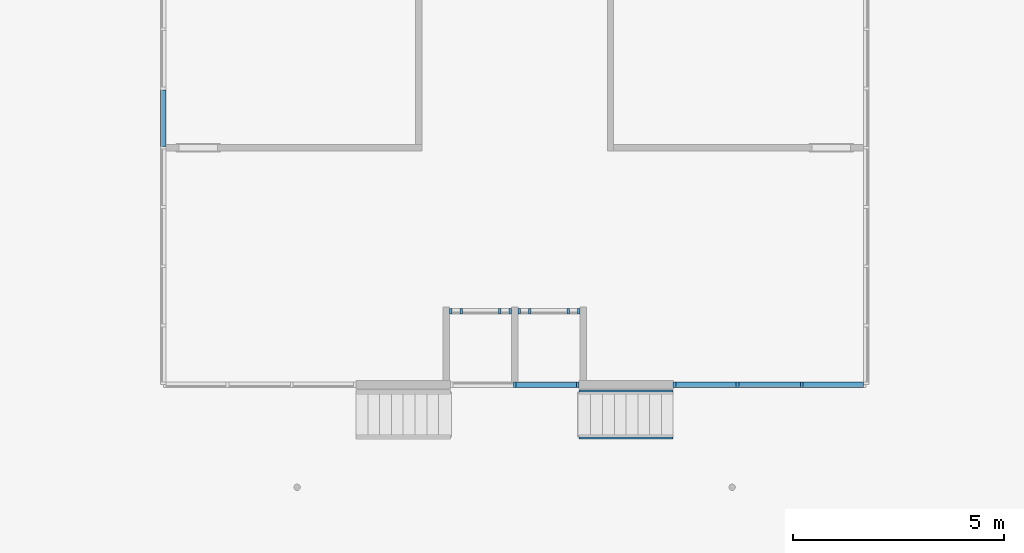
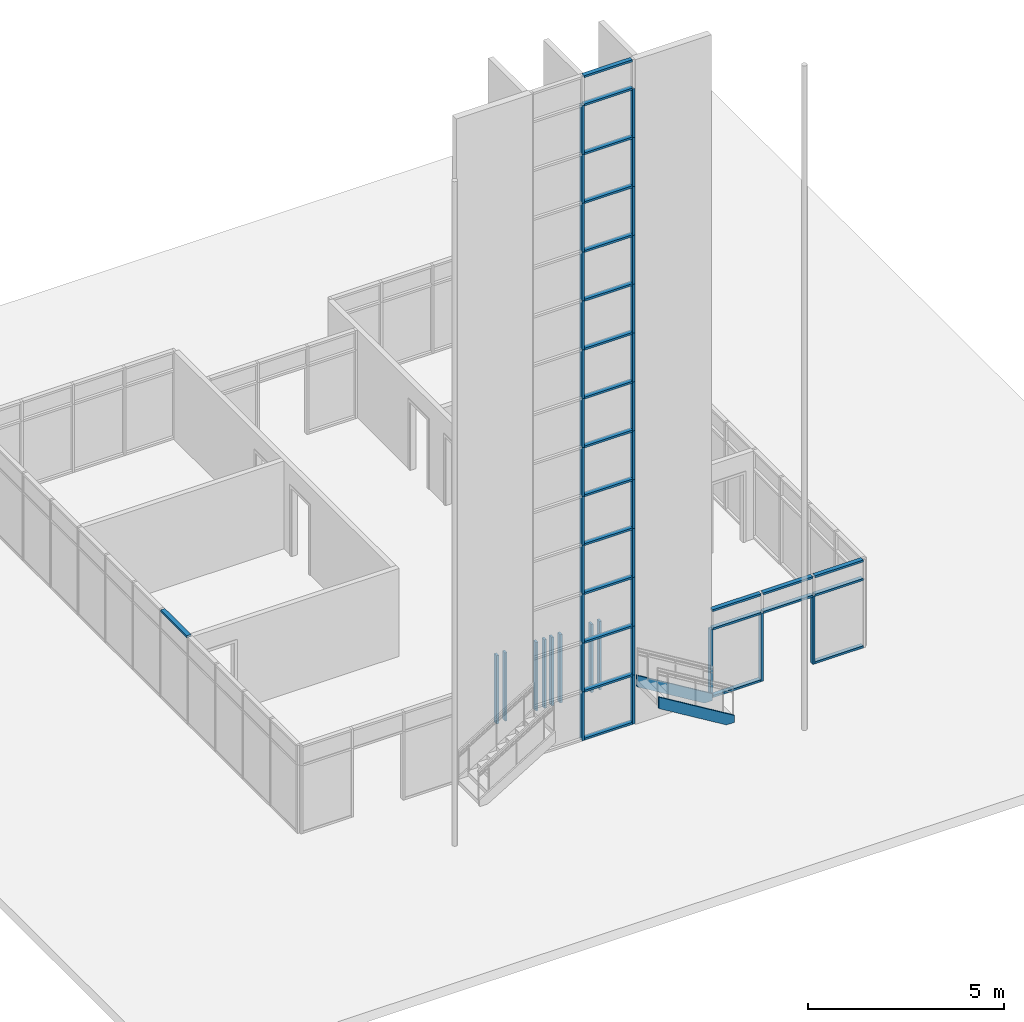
# One storey, part 2 of 12: 63 members, 6 elements without a shape of their own.
"""IFC2X3 building model written with IfcOpenShell, lengths in feet."""

from ifc_helpers import new_model, entity, si_unit, converted_unit, derived_unit, direction, frame, origin, origin_2d_with_axis, place, context, subcontext, project, spatial, polyline, rectangle, outline, extrude, source, transform, mapped, material, type_object, type_shapes, element, aggregate, save


model = new_model("IFC2X3")

# Units and contexts
model_context = context("Model", 3, precision=0.0001, world=origin(), true_north=direction((6.12303176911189e-17, 1.0)))
body_context = subcontext(model_context, "Body", "Model", "MODEL_VIEW")
ifc_project = project(units=[converted_unit("LENGTHUNIT", "FOOT", entity("IfcRatioMeasure", 0.3048), si_unit("LENGTHUNIT", "METRE"), dimensions=[1, 0, 0, 0, 0, 0, 0]), converted_unit("AREAUNIT", "SQUARE FOOT", entity("IfcRatioMeasure", 0.09290304), si_unit("AREAUNIT", "SQUARE_METRE"), dimensions=[2, 0, 0, 0, 0, 0, 0]), converted_unit("VOLUMEUNIT", "CUBIC FOOT", entity("IfcRatioMeasure", 0.028316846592), si_unit("VOLUMEUNIT", "CUBIC_METRE"), dimensions=[3, 0, 0, 0, 0, 0, 0]), converted_unit("PLANEANGLEUNIT", "DEGREE", entity("IfcRatioMeasure", 0.0174532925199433), si_unit("PLANEANGLEUNIT", "RADIAN"), dimensions=[0, 0, 0, 0, 0, 0, 0]), si_unit("MASSUNIT", "GRAM", prefix="KILO"), derived_unit("MASSDENSITYUNIT", [(si_unit("MASSUNIT", "GRAM", prefix="KILO"), 1), (si_unit("LENGTHUNIT", "METRE"), -3)]), si_unit("TIMEUNIT", "SECOND"), si_unit("FREQUENCYUNIT", "HERTZ"), si_unit("THERMODYNAMICTEMPERATUREUNIT", "DEGREE_CELSIUS"), derived_unit("THERMALTRANSMITTANCEUNIT", [(si_unit("MASSUNIT", "GRAM", prefix="KILO"), 1), (si_unit("THERMODYNAMICTEMPERATUREUNIT", "KELVIN"), -1), (si_unit("TIMEUNIT", "SECOND"), -3)]), derived_unit("VOLUMETRICFLOWRATEUNIT", [(si_unit("LENGTHUNIT", "METRE"), 3), (si_unit("TIMEUNIT", "SECOND"), -1)]), si_unit("ELECTRICCURRENTUNIT", "AMPERE"), si_unit("ELECTRICVOLTAGEUNIT", "VOLT"), si_unit("POWERUNIT", "WATT"), si_unit("FORCEUNIT", "NEWTON"), si_unit("ILLUMINANCEUNIT", "LUX"), si_unit("LUMINOUSFLUXUNIT", "LUMEN"), si_unit("LUMINOUSINTENSITYUNIT", "CANDELA"), derived_unit("USERDEFINED", [(si_unit("MASSUNIT", "GRAM", prefix="KILO"), -1), (si_unit("LENGTHUNIT", "METRE"), -2), (si_unit("TIMEUNIT", "SECOND"), 3), (si_unit("LUMINOUSFLUXUNIT", "LUMEN"), 1)]), derived_unit("LINEARVELOCITYUNIT", [(si_unit("LENGTHUNIT", "METRE"), 1), (si_unit("TIMEUNIT", "SECOND"), -1)]), si_unit("PRESSUREUNIT", "PASCAL"), derived_unit("USERDEFINED", [(si_unit("LENGTHUNIT", "METRE"), -2), (si_unit("MASSUNIT", "GRAM", prefix="KILO"), 1), (si_unit("TIMEUNIT", "SECOND"), -2)])], contexts=[model_context])

# Site, building, storey
site_placement = place(None, origin())
site = spatial("IfcSite", under=ifc_project, at=site_placement, Name="Default", CompositionType="ELEMENT")
building_placement = place(site_placement, origin())
building = spatial("IfcBuilding", under=site, at=building_placement, CompositionType="ELEMENT")
storey_placement = place(building_placement, origin())
storey = spatial("IfcBuildingStorey", under=building, at=storey_placement, Name="Level 1", CompositionType="ELEMENT", Elevation=0.0)

# Stair, members
stair_placement = place(storey_placement, origin())
stair = element("IfcStair", 1, at=stair_placement, inside=storey, Name="Assembled Stair:Stair", ObjectType="Assembled Stair:7\" max riser 11\" tread", ShapeType="NOTDEFINED")
member_type_1 = type_object("IfcMemberType", Name="Stringer:Stringer - 2\" Width", PredefinedType="STRINGER")
member_1_placement = place(stair_placement, origin())
member_1 = element("IfcMember", 2, at=member_1_placement, type_object=member_type_1, Name="Assembled Stair:Stair:188782 Stringer 1", ObjectType="Assembled Stair:7\" max riser 11\" tread", context=body_context, shape_type="SweptSolid", body=[
    extrude(outline(polyline([(-3.08955742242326, -1.96146201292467), (-2.30843697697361, -1.96146201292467), (4.24377591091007, 2.009576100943), (4.24377591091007, 3.1788961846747), (-3.08955742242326, -1.26554825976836), (-3.08955742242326, -1.96146201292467)])), frame((-24.7480535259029, -7.50364126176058, 1.96146201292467), z_axis=(0.0, 1.0, 0.0), x_axis=(-1.0, 0.0, 0.0)), (0.0, 0.0, 1.0), 0.166666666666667),
])
member_2_placement = place(stair_placement, origin())
member_2 = element("IfcMember", 3, at=member_2_placement, type_object=member_type_1, Name="Assembled Stair:Stair:188782 Stringer 2", ObjectType="Assembled Stair:7\" max riser 11\" tread", context=body_context, shape_type="SweptSolid", body=[
    extrude(outline(polyline([(-3.08955742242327, -1.96146201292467), (-2.30843697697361, -1.96146201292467), (4.24377591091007, 2.009576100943), (4.24377591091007, 3.1788961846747), (-3.08955742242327, -1.26554825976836), (-3.08955742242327, -1.96146201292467)])), frame((-24.7480535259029, -11.1703079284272, 1.96146201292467), z_axis=(0.0, 1.0, 0.0), x_axis=(-1.0, 0.0, 0.0)), (0.0, 0.0, 1.0), 0.166666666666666),
])
aggregate(stair, [member_1, member_2])

# Curtain wall, member
curtain_wall_type_1 = type_object("IfcCurtainWallType", Name="Curtain Wall:Storefront", PredefinedType="NOTDEFINED")
curtain_wall_1_placement = place(storey_placement, origin())
curtain_wall_1 = element("IfcCurtainWall", 4, at=curtain_wall_1_placement, inside=storey, type_object=curtain_wall_type_1, Name="Curtain Wall:Storefront", ObjectType="Curtain Wall:Storefront")
ifc_material = material(Name="Aluminum")
member_type_2 = type_object("IfcMemberType", Name="2.5\" x 5\" rectangular", PredefinedType="MEMBER")
shared_shape_1 = source(origin(), body_context, "Body", "SweptSolid", [
    extrude(rectangle(XDim=0.416666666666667, YDim=0.208333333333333, at=origin_2d_with_axis()), frame((-0.104166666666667, 0.0, -4.6875), z_axis=(0.0, 0.0, 1.0), x_axis=(0.0, -1.0, 0.0)), (0.0, 0.0, 1.0), 4.6875),
])
type_shapes(member_type_2, [shared_shape_1])
member_3_placement = place(storey_placement, frame((-29.2001627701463, -6.94114126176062, 68.0), z_axis=(1.0, 0.0, 0.0), x_axis=(0.0, 0.0, 1.0)))
member_3 = element("IfcMember", 5, at=member_3_placement, type_object=member_type_2, material=ifc_material, Name="Rectangular Mullion:2.5\" x 5\" rectangular", ObjectType="2.5\" x 5\" rectangular", context=body_context, shape_type="MappedRepresentation", body=[
    mapped(shared_shape_1, transform((0.0, 0.0, 0.0), scale=1.0)),
])

# Curtain wall, members
curtain_wall_type_2 = type_object("IfcCurtainWallType", Name="Curtain Wall:Storefront 2", PredefinedType="NOTDEFINED")
curtain_wall_2_placement = place(storey_placement, origin())
curtain_wall_2 = element("IfcCurtainWall", 6, at=curtain_wall_2_placement, inside=storey, type_object=curtain_wall_type_2, Name="Curtain Wall:Storefront 2", ObjectType="Curtain Wall:Storefront 2")
member_4_placement = place(storey_placement, frame((-21.4501627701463, -6.94114126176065, 9.0), z_axis=(-1.0, 0.0, 0.0), x_axis=(0.0, 0.0, 1.0)))
member_4 = element("IfcMember", 7, at=member_4_placement, type_object=member_type_2, material=ifc_material, Name="Rectangular Mullion:2.5\" x 5\" rectangular", ObjectType="2.5\" x 5\" rectangular", context=body_context, shape_type="MappedRepresentation", body=[
    mapped(shared_shape_1, transform((0.0, 0.0, 0.0), scale=1.0)),
])
member_5_placement = place(storey_placement, frame((-11.5543294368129, -6.94114126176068, 9.0), z_axis=(-1.0, 0.0, 0.0), x_axis=(0.0, 0.0, 1.0)))
member_5 = element("IfcMember", 8, at=member_5_placement, type_object=member_type_2, material=ifc_material, Name="Rectangular Mullion:2.5\" x 5\" rectangular", ObjectType="2.5\" x 5\" rectangular", context=body_context, shape_type="MappedRepresentation", body=[
    mapped(shared_shape_1, transform((0.0, 0.0, 0.0), scale=1.0)),
])

# Member
member_type_3 = type_object("IfcMemberType", Name="2.5\" x 5\" rectangular", PredefinedType="MEMBER")
shared_shape_2 = source(origin(), body_context, "Body", "SweptSolid", [
    extrude(rectangle(XDim=0.416666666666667, YDim=0.208333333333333, at=origin_2d_with_axis()), frame((-0.104166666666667, 0.0, -4.6875), z_axis=(0.0, 0.0, 1.0), x_axis=(0.0, -1.0, 0.0)), (0.0, 0.0, 1.0), 4.6875),
])
type_shapes(member_type_3, [shared_shape_2])
member_6_placement = place(storey_placement, frame((-33.8876627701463, -6.94114126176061, 0.0), z_axis=(-1.0, 0.0, 0.0), x_axis=(0.0, 0.0, -1.0)))
member_6 = element("IfcMember", 9, at=member_6_placement, type_object=member_type_3, material=ifc_material, Name="Rectangular Mullion:2.5\" x 5\" rectangular", ObjectType="2.5\" x 5\" rectangular", context=body_context, shape_type="MappedRepresentation", body=[
    mapped(shared_shape_2, transform((0.0, 0.0, 0.0), scale=1.0)),
])

member_7_placement = place(storey_placement, frame((-6.86682943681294, -6.94114126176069, 0.0), z_axis=(1.0, 0.0, 0.0), x_axis=(0.0, 0.0, -1.0)))
member_7 = element("IfcMember", 10, at=member_7_placement, type_object=member_type_3, material=ifc_material, Name="Rectangular Mullion:2.5\" x 5\" rectangular", ObjectType="2.5\" x 5\" rectangular", context=body_context, shape_type="MappedRepresentation", body=[
    mapped(shared_shape_2, transform((0.0, 0.0, 0.0), scale=1.0)),
])

member_8_placement = place(storey_placement, frame((-16.7626627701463, -6.94114126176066, 0.0), z_axis=(1.0, 0.0, 0.0), x_axis=(0.0, 0.0, -1.0)))
member_8 = element("IfcMember", 11, at=member_8_placement, type_object=member_type_3, material=ifc_material, Name="Rectangular Mullion:2.5\" x 5\" rectangular", ObjectType="2.5\" x 5\" rectangular", context=body_context, shape_type="MappedRepresentation", body=[
    mapped(shared_shape_2, transform((0.0, 0.0, 0.0), scale=1.0)),
])

member_type_4 = type_object("IfcMemberType", Name="2.5\" x 5\" rectangular", PredefinedType="MEMBER")
shared_shape_3 = source(origin(), body_context, "Body", "SweptSolid", [
    extrude(rectangle(XDim=0.416666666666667, YDim=0.208333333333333, at=origin_2d_with_axis()), frame((-0.104166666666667, 0.0, -5.0), z_axis=(0.0, 0.0, 1.0), x_axis=(0.0, -1.0, 0.0)), (0.0, 0.0, 1.0), 5.0),
])
type_shapes(member_type_4, [shared_shape_3])
member_9_placement = place(storey_placement, frame((-28.9918294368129, -6.94114126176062, 0.0), z_axis=(0.0, 0.0, -1.0), x_axis=(1.0, 0.0, 0.0)))
member_9 = element("IfcMember", 12, at=member_9_placement, type_object=member_type_4, material=ifc_material, Name="Rectangular Mullion:2.5\" x 5\" rectangular", ObjectType="2.5\" x 5\" rectangular", context=body_context, shape_type="MappedRepresentation", body=[
    mapped(shared_shape_3, transform((0.0, 0.0, 0.0), scale=1.0)),
])

member_type_5 = type_object("IfcMemberType", Name="2.5\" x 5\" rectangular", PredefinedType="MEMBER")
shared_shape_4 = source(origin(), body_context, "Body", "SweptSolid", [
    extrude(rectangle(XDim=0.416666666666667, YDim=0.208333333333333, at=origin_2d_with_axis()), frame((-0.104166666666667, 0.0, -5.0), z_axis=(0.0, 0.0, 1.0), x_axis=(0.0, -1.0, 0.0)), (0.0, 0.0, 1.0), 5.0),
])
type_shapes(member_type_5, [shared_shape_4])
member_10_placement = place(storey_placement, frame((-28.9918294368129, -6.94114126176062, 5.0), z_axis=(0.0, 0.0, -1.0), x_axis=(1.0, 0.0, 0.0)))
member_10 = element("IfcMember", 13, at=member_10_placement, type_object=member_type_5, material=ifc_material, Name="Rectangular Mullion:2.5\" x 5\" rectangular", ObjectType="2.5\" x 5\" rectangular", context=body_context, shape_type="MappedRepresentation", body=[
    mapped(shared_shape_4, transform((0.0, 0.0, 0.0), scale=1.0)),
])

member_11_placement = place(storey_placement, frame((-28.9918294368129, -6.94114126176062, 10.0), z_axis=(0.0, 0.0, -1.0), x_axis=(1.0, 0.0, 0.0)))
member_11 = element("IfcMember", 14, at=member_11_placement, type_object=member_type_5, material=ifc_material, Name="Rectangular Mullion:2.5\" x 5\" rectangular", ObjectType="2.5\" x 5\" rectangular", context=body_context, shape_type="MappedRepresentation", body=[
    mapped(shared_shape_4, transform((0.0, 0.0, 0.0), scale=1.0)),
])

member_12_placement = place(storey_placement, frame((-28.9918294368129, -6.94114126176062, 15.0), z_axis=(0.0, 0.0, -1.0), x_axis=(1.0, 0.0, 0.0)))
member_12 = element("IfcMember", 15, at=member_12_placement, type_object=member_type_5, material=ifc_material, Name="Rectangular Mullion:2.5\" x 5\" rectangular", ObjectType="2.5\" x 5\" rectangular", context=body_context, shape_type="MappedRepresentation", body=[
    mapped(shared_shape_4, transform((0.0, 0.0, 0.0), scale=1.0)),
])

member_13_placement = place(storey_placement, frame((-28.9918294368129, -6.94114126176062, 20.0), z_axis=(0.0, 0.0, -1.0), x_axis=(1.0, 0.0, 0.0)))
member_13 = element("IfcMember", 16, at=member_13_placement, type_object=member_type_5, material=ifc_material, Name="Rectangular Mullion:2.5\" x 5\" rectangular", ObjectType="2.5\" x 5\" rectangular", context=body_context, shape_type="MappedRepresentation", body=[
    mapped(shared_shape_4, transform((0.0, 0.0, 0.0), scale=1.0)),
])

member_14_placement = place(storey_placement, frame((-28.9918294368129, -6.94114126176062, 25.0), z_axis=(0.0, 0.0, -1.0), x_axis=(1.0, 0.0, 0.0)))
member_14 = element("IfcMember", 17, at=member_14_placement, type_object=member_type_5, material=ifc_material, Name="Rectangular Mullion:2.5\" x 5\" rectangular", ObjectType="2.5\" x 5\" rectangular", context=body_context, shape_type="MappedRepresentation", body=[
    mapped(shared_shape_4, transform((0.0, 0.0, 0.0), scale=1.0)),
])

member_15_placement = place(storey_placement, frame((-28.9918294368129, -6.94114126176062, 30.0), z_axis=(0.0, 0.0, -1.0), x_axis=(1.0, 0.0, 0.0)))
member_15 = element("IfcMember", 18, at=member_15_placement, type_object=member_type_5, material=ifc_material, Name="Rectangular Mullion:2.5\" x 5\" rectangular", ObjectType="2.5\" x 5\" rectangular", context=body_context, shape_type="MappedRepresentation", body=[
    mapped(shared_shape_4, transform((0.0, 0.0, 0.0), scale=1.0)),
])

member_16_placement = place(storey_placement, frame((-28.9918294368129, -6.94114126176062, 35.0), z_axis=(0.0, 0.0, -1.0), x_axis=(1.0, 0.0, 0.0)))
member_16 = element("IfcMember", 19, at=member_16_placement, type_object=member_type_5, material=ifc_material, Name="Rectangular Mullion:2.5\" x 5\" rectangular", ObjectType="2.5\" x 5\" rectangular", context=body_context, shape_type="MappedRepresentation", body=[
    mapped(shared_shape_4, transform((0.0, 0.0, 0.0), scale=1.0)),
])

member_17_placement = place(storey_placement, frame((-28.9918294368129, -6.94114126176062, 40.0), z_axis=(0.0, 0.0, -1.0), x_axis=(1.0, 0.0, 0.0)))
member_17 = element("IfcMember", 20, at=member_17_placement, type_object=member_type_5, material=ifc_material, Name="Rectangular Mullion:2.5\" x 5\" rectangular", ObjectType="2.5\" x 5\" rectangular", context=body_context, shape_type="MappedRepresentation", body=[
    mapped(shared_shape_4, transform((0.0, 0.0, 0.0), scale=1.0)),
])

member_18_placement = place(storey_placement, frame((-28.9918294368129, -6.94114126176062, 45.0), z_axis=(0.0, 0.0, -1.0), x_axis=(1.0, 0.0, 0.0)))
member_18 = element("IfcMember", 21, at=member_18_placement, type_object=member_type_5, material=ifc_material, Name="Rectangular Mullion:2.5\" x 5\" rectangular", ObjectType="2.5\" x 5\" rectangular", context=body_context, shape_type="MappedRepresentation", body=[
    mapped(shared_shape_4, transform((0.0, 0.0, 0.0), scale=1.0)),
])

member_19_placement = place(storey_placement, frame((-28.9918294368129, -6.94114126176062, 50.0), z_axis=(0.0, 0.0, -1.0), x_axis=(1.0, 0.0, 0.0)))
member_19 = element("IfcMember", 22, at=member_19_placement, type_object=member_type_5, material=ifc_material, Name="Rectangular Mullion:2.5\" x 5\" rectangular", ObjectType="2.5\" x 5\" rectangular", context=body_context, shape_type="MappedRepresentation", body=[
    mapped(shared_shape_4, transform((0.0, 0.0, 0.0), scale=1.0)),
])

member_20_placement = place(storey_placement, frame((-28.9918294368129, -6.94114126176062, 55.0), z_axis=(0.0, 0.0, -1.0), x_axis=(1.0, 0.0, 0.0)))
member_20 = element("IfcMember", 23, at=member_20_placement, type_object=member_type_5, material=ifc_material, Name="Rectangular Mullion:2.5\" x 5\" rectangular", ObjectType="2.5\" x 5\" rectangular", context=body_context, shape_type="MappedRepresentation", body=[
    mapped(shared_shape_4, transform((0.0, 0.0, 0.0), scale=1.0)),
])

member_21_placement = place(storey_placement, frame((-28.9918294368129, -6.94114126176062, 60.0), z_axis=(0.0, 0.0, -1.0), x_axis=(1.0, 0.0, 0.0)))
member_21 = element("IfcMember", 24, at=member_21_placement, type_object=member_type_5, material=ifc_material, Name="Rectangular Mullion:2.5\" x 5\" rectangular", ObjectType="2.5\" x 5\" rectangular", context=body_context, shape_type="MappedRepresentation", body=[
    mapped(shared_shape_4, transform((0.0, 0.0, 0.0), scale=1.0)),
])

member_type_6 = type_object("IfcMemberType", Name="2.5\" x 5\" rectangular", PredefinedType="MEMBER")
shared_shape_5 = source(origin(), body_context, "Body", "SweptSolid", [
    extrude(rectangle(XDim=0.416666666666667, YDim=0.208333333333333, at=origin_2d_with_axis()), frame((0.0, 0.0, -4.6875), z_axis=(0.0, 0.0, 1.0), x_axis=(0.0, -1.0, 0.0)), (0.0, 0.0, 1.0), 4.6875),
])
type_shapes(member_type_6, [shared_shape_5])
member_22_placement = place(storey_placement, frame((-29.2001627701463, -6.94114126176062, 5.0), z_axis=(1.0, 0.0, 0.0), x_axis=(0.0, 0.0, 1.0)))
member_22 = element("IfcMember", 25, at=member_22_placement, type_object=member_type_6, material=ifc_material, Name="Rectangular Mullion:2.5\" x 5\" rectangular", ObjectType="2.5\" x 5\" rectangular", context=body_context, shape_type="MappedRepresentation", body=[
    mapped(shared_shape_5, transform((0.0, 0.0, 0.0), scale=1.0)),
])

member_23_placement = place(storey_placement, frame((-29.2001627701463, -6.94114126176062, 10.0), z_axis=(1.0, 0.0, 0.0), x_axis=(0.0, 0.0, 1.0)))
member_23 = element("IfcMember", 26, at=member_23_placement, type_object=member_type_6, material=ifc_material, Name="Rectangular Mullion:2.5\" x 5\" rectangular", ObjectType="2.5\" x 5\" rectangular", context=body_context, shape_type="MappedRepresentation", body=[
    mapped(shared_shape_5, transform((0.0, 0.0, 0.0), scale=1.0)),
])

member_24_placement = place(storey_placement, frame((-29.2001627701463, -6.94114126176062, 15.0), z_axis=(1.0, 0.0, 0.0), x_axis=(0.0, 0.0, 1.0)))
member_24 = element("IfcMember", 27, at=member_24_placement, type_object=member_type_6, material=ifc_material, Name="Rectangular Mullion:2.5\" x 5\" rectangular", ObjectType="2.5\" x 5\" rectangular", context=body_context, shape_type="MappedRepresentation", body=[
    mapped(shared_shape_5, transform((0.0, 0.0, 0.0), scale=1.0)),
])

member_25_placement = place(storey_placement, frame((-29.2001627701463, -6.94114126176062, 20.0), z_axis=(1.0, 0.0, 0.0), x_axis=(0.0, 0.0, 1.0)))
member_25 = element("IfcMember", 28, at=member_25_placement, type_object=member_type_6, material=ifc_material, Name="Rectangular Mullion:2.5\" x 5\" rectangular", ObjectType="2.5\" x 5\" rectangular", context=body_context, shape_type="MappedRepresentation", body=[
    mapped(shared_shape_5, transform((0.0, 0.0, 0.0), scale=1.0)),
])

member_26_placement = place(storey_placement, frame((-29.2001627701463, -6.94114126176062, 25.0), z_axis=(1.0, 0.0, 0.0), x_axis=(0.0, 0.0, 1.0)))
member_26 = element("IfcMember", 29, at=member_26_placement, type_object=member_type_6, material=ifc_material, Name="Rectangular Mullion:2.5\" x 5\" rectangular", ObjectType="2.5\" x 5\" rectangular", context=body_context, shape_type="MappedRepresentation", body=[
    mapped(shared_shape_5, transform((0.0, 0.0, 0.0), scale=1.0)),
])

member_27_placement = place(storey_placement, frame((-29.2001627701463, -6.94114126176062, 30.0), z_axis=(1.0, 0.0, 0.0), x_axis=(0.0, 0.0, 1.0)))
member_27 = element("IfcMember", 30, at=member_27_placement, type_object=member_type_6, material=ifc_material, Name="Rectangular Mullion:2.5\" x 5\" rectangular", ObjectType="2.5\" x 5\" rectangular", context=body_context, shape_type="MappedRepresentation", body=[
    mapped(shared_shape_5, transform((0.0, 0.0, 0.0), scale=1.0)),
])

member_28_placement = place(storey_placement, frame((-29.2001627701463, -6.94114126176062, 35.0), z_axis=(1.0, 0.0, 0.0), x_axis=(0.0, 0.0, 1.0)))
member_28 = element("IfcMember", 31, at=member_28_placement, type_object=member_type_6, material=ifc_material, Name="Rectangular Mullion:2.5\" x 5\" rectangular", ObjectType="2.5\" x 5\" rectangular", context=body_context, shape_type="MappedRepresentation", body=[
    mapped(shared_shape_5, transform((0.0, 0.0, 0.0), scale=1.0)),
])

member_29_placement = place(storey_placement, frame((-29.2001627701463, -6.94114126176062, 40.0), z_axis=(1.0, 0.0, 0.0), x_axis=(0.0, 0.0, 1.0)))
member_29 = element("IfcMember", 32, at=member_29_placement, type_object=member_type_6, material=ifc_material, Name="Rectangular Mullion:2.5\" x 5\" rectangular", ObjectType="2.5\" x 5\" rectangular", context=body_context, shape_type="MappedRepresentation", body=[
    mapped(shared_shape_5, transform((0.0, 0.0, 0.0), scale=1.0)),
])

member_30_placement = place(storey_placement, frame((-29.2001627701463, -6.94114126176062, 45.0), z_axis=(1.0, 0.0, 0.0), x_axis=(0.0, 0.0, 1.0)))
member_30 = element("IfcMember", 33, at=member_30_placement, type_object=member_type_6, material=ifc_material, Name="Rectangular Mullion:2.5\" x 5\" rectangular", ObjectType="2.5\" x 5\" rectangular", context=body_context, shape_type="MappedRepresentation", body=[
    mapped(shared_shape_5, transform((0.0, 0.0, 0.0), scale=1.0)),
])

member_31_placement = place(storey_placement, frame((-29.2001627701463, -6.94114126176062, 50.0), z_axis=(1.0, 0.0, 0.0), x_axis=(0.0, 0.0, 1.0)))
member_31 = element("IfcMember", 34, at=member_31_placement, type_object=member_type_6, material=ifc_material, Name="Rectangular Mullion:2.5\" x 5\" rectangular", ObjectType="2.5\" x 5\" rectangular", context=body_context, shape_type="MappedRepresentation", body=[
    mapped(shared_shape_5, transform((0.0, 0.0, 0.0), scale=1.0)),
])

member_32_placement = place(storey_placement, frame((-29.2001627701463, -6.94114126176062, 55.0), z_axis=(1.0, 0.0, 0.0), x_axis=(0.0, 0.0, 1.0)))
member_32 = element("IfcMember", 35, at=member_32_placement, type_object=member_type_6, material=ifc_material, Name="Rectangular Mullion:2.5\" x 5\" rectangular", ObjectType="2.5\" x 5\" rectangular", context=body_context, shape_type="MappedRepresentation", body=[
    mapped(shared_shape_5, transform((0.0, 0.0, 0.0), scale=1.0)),
])

member_33_placement = place(storey_placement, frame((-29.2001627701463, -6.94114126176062, 60.0), z_axis=(1.0, 0.0, 0.0), x_axis=(0.0, 0.0, 1.0)))
member_33 = element("IfcMember", 36, at=member_33_placement, type_object=member_type_6, material=ifc_material, Name="Rectangular Mullion:2.5\" x 5\" rectangular", ObjectType="2.5\" x 5\" rectangular", context=body_context, shape_type="MappedRepresentation", body=[
    mapped(shared_shape_5, transform((0.0, 0.0, 0.0), scale=1.0)),
])

member_34_placement = place(storey_placement, frame((-29.2001627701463, -6.94114126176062, 65.0), z_axis=(1.0, 0.0, 0.0), x_axis=(0.0, 0.0, 1.0)))
member_34 = element("IfcMember", 37, at=member_34_placement, type_object=member_type_6, material=ifc_material, Name="Rectangular Mullion:2.5\" x 5\" rectangular", ObjectType="2.5\" x 5\" rectangular", context=body_context, shape_type="MappedRepresentation", body=[
    mapped(shared_shape_5, transform((0.0, 0.0, 0.0), scale=1.0)),
])

member_35_placement = place(storey_placement, frame((-11.5543294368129, -6.94114126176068, 7.0), z_axis=(-1.0, 0.0, 0.0), x_axis=(0.0, 0.0, 1.0)))
member_35 = element("IfcMember", 38, at=member_35_placement, type_object=member_type_6, material=ifc_material, Name="Rectangular Mullion:2.5\" x 5\" rectangular", ObjectType="2.5\" x 5\" rectangular", context=body_context, shape_type="MappedRepresentation", body=[
    mapped(shared_shape_5, transform((0.0, 0.0, 0.0), scale=1.0)),
])

member_36_placement = place(storey_placement, frame((-21.4501627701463, -6.94114126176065, 7.0), z_axis=(-1.0, 0.0, 0.0), x_axis=(0.0, 0.0, 1.0)))
member_36 = element("IfcMember", 39, at=member_36_placement, type_object=member_type_6, material=ifc_material, Name="Rectangular Mullion:2.5\" x 5\" rectangular", ObjectType="2.5\" x 5\" rectangular", context=body_context, shape_type="MappedRepresentation", body=[
    mapped(shared_shape_5, transform((0.0, 0.0, 0.0), scale=1.0)),
])

member_type_7 = type_object("IfcMemberType", Name="2.5\" x 5\" rectangular", PredefinedType="MEMBER")
shared_shape_6 = source(origin(), body_context, "Body", "SweptSolid", [
    extrude(rectangle(XDim=0.416666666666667, YDim=0.208333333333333, at=origin_2d_with_axis()), frame((0.0, 0.0, -5.0), z_axis=(0.0, 0.0, 1.0), x_axis=(0.0, -1.0, 0.0)), (0.0, 0.0, 1.0), 5.0),
])
type_shapes(member_type_7, [shared_shape_6])
member_37_placement = place(storey_placement, frame((-33.9918294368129, -6.94114126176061, 0.0), z_axis=(0.0, 0.0, -1.0), x_axis=(1.0, 0.0, 0.0)))
member_37 = element("IfcMember", 40, at=member_37_placement, type_object=member_type_7, material=ifc_material, Name="Rectangular Mullion:2.5\" x 5\" rectangular", ObjectType="2.5\" x 5\" rectangular", context=body_context, shape_type="MappedRepresentation", body=[
    mapped(shared_shape_6, transform((0.0, 0.0, 0.0), scale=1.0)),
])

member_type_8 = type_object("IfcMemberType", Name="2.5\" x 5\" rectangular", PredefinedType="MEMBER")
shared_shape_7 = source(origin(), body_context, "Body", "SweptSolid", [
    extrude(rectangle(XDim=0.416666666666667, YDim=0.208333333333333, at=origin_2d_with_axis()), frame((0.0, 0.0, -5.0), z_axis=(0.0, 0.0, 1.0), x_axis=(0.0, -1.0, 0.0)), (0.0, 0.0, 1.0), 5.0),
])
type_shapes(member_type_8, [shared_shape_7])
member_38_placement = place(storey_placement, frame((-33.9918294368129, -6.94114126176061, 5.0), z_axis=(0.0, 0.0, -1.0), x_axis=(1.0, 0.0, 0.0)))
member_38 = element("IfcMember", 41, at=member_38_placement, type_object=member_type_8, material=ifc_material, Name="Rectangular Mullion:2.5\" x 5\" rectangular", ObjectType="2.5\" x 5\" rectangular", context=body_context, shape_type="MappedRepresentation", body=[
    mapped(shared_shape_7, transform((0.0, 0.0, 0.0), scale=1.0)),
])

member_39_placement = place(storey_placement, frame((-33.9918294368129, -6.94114126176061, 10.0), z_axis=(0.0, 0.0, -1.0), x_axis=(1.0, 0.0, 0.0)))
member_39 = element("IfcMember", 42, at=member_39_placement, type_object=member_type_8, material=ifc_material, Name="Rectangular Mullion:2.5\" x 5\" rectangular", ObjectType="2.5\" x 5\" rectangular", context=body_context, shape_type="MappedRepresentation", body=[
    mapped(shared_shape_7, transform((0.0, 0.0, 0.0), scale=1.0)),
])

member_40_placement = place(storey_placement, frame((-33.9918294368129, -6.94114126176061, 15.0), z_axis=(0.0, 0.0, -1.0), x_axis=(1.0, 0.0, 0.0)))
member_40 = element("IfcMember", 43, at=member_40_placement, type_object=member_type_8, material=ifc_material, Name="Rectangular Mullion:2.5\" x 5\" rectangular", ObjectType="2.5\" x 5\" rectangular", context=body_context, shape_type="MappedRepresentation", body=[
    mapped(shared_shape_7, transform((0.0, 0.0, 0.0), scale=1.0)),
])

member_41_placement = place(storey_placement, frame((-33.9918294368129, -6.94114126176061, 20.0), z_axis=(0.0, 0.0, -1.0), x_axis=(1.0, 0.0, 0.0)))
member_41 = element("IfcMember", 44, at=member_41_placement, type_object=member_type_8, material=ifc_material, Name="Rectangular Mullion:2.5\" x 5\" rectangular", ObjectType="2.5\" x 5\" rectangular", context=body_context, shape_type="MappedRepresentation", body=[
    mapped(shared_shape_7, transform((0.0, 0.0, 0.0), scale=1.0)),
])

member_42_placement = place(storey_placement, frame((-33.9918294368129, -6.94114126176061, 25.0), z_axis=(0.0, 0.0, -1.0), x_axis=(1.0, 0.0, 0.0)))
member_42 = element("IfcMember", 45, at=member_42_placement, type_object=member_type_8, material=ifc_material, Name="Rectangular Mullion:2.5\" x 5\" rectangular", ObjectType="2.5\" x 5\" rectangular", context=body_context, shape_type="MappedRepresentation", body=[
    mapped(shared_shape_7, transform((0.0, 0.0, 0.0), scale=1.0)),
])

member_43_placement = place(storey_placement, frame((-33.9918294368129, -6.94114126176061, 30.0), z_axis=(0.0, 0.0, -1.0), x_axis=(1.0, 0.0, 0.0)))
member_43 = element("IfcMember", 46, at=member_43_placement, type_object=member_type_8, material=ifc_material, Name="Rectangular Mullion:2.5\" x 5\" rectangular", ObjectType="2.5\" x 5\" rectangular", context=body_context, shape_type="MappedRepresentation", body=[
    mapped(shared_shape_7, transform((0.0, 0.0, 0.0), scale=1.0)),
])

member_44_placement = place(storey_placement, frame((-33.9918294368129, -6.94114126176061, 35.0), z_axis=(0.0, 0.0, -1.0), x_axis=(1.0, 0.0, 0.0)))
member_44 = element("IfcMember", 47, at=member_44_placement, type_object=member_type_8, material=ifc_material, Name="Rectangular Mullion:2.5\" x 5\" rectangular", ObjectType="2.5\" x 5\" rectangular", context=body_context, shape_type="MappedRepresentation", body=[
    mapped(shared_shape_7, transform((0.0, 0.0, 0.0), scale=1.0)),
])

member_45_placement = place(storey_placement, frame((-33.9918294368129, -6.94114126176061, 40.0), z_axis=(0.0, 0.0, -1.0), x_axis=(1.0, 0.0, 0.0)))
member_45 = element("IfcMember", 48, at=member_45_placement, type_object=member_type_8, material=ifc_material, Name="Rectangular Mullion:2.5\" x 5\" rectangular", ObjectType="2.5\" x 5\" rectangular", context=body_context, shape_type="MappedRepresentation", body=[
    mapped(shared_shape_7, transform((0.0, 0.0, 0.0), scale=1.0)),
])

member_46_placement = place(storey_placement, frame((-33.9918294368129, -6.94114126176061, 45.0), z_axis=(0.0, 0.0, -1.0), x_axis=(1.0, 0.0, 0.0)))
member_46 = element("IfcMember", 49, at=member_46_placement, type_object=member_type_8, material=ifc_material, Name="Rectangular Mullion:2.5\" x 5\" rectangular", ObjectType="2.5\" x 5\" rectangular", context=body_context, shape_type="MappedRepresentation", body=[
    mapped(shared_shape_7, transform((0.0, 0.0, 0.0), scale=1.0)),
])

member_47_placement = place(storey_placement, frame((-33.9918294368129, -6.94114126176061, 50.0), z_axis=(0.0, 0.0, -1.0), x_axis=(1.0, 0.0, 0.0)))
member_47 = element("IfcMember", 50, at=member_47_placement, type_object=member_type_8, material=ifc_material, Name="Rectangular Mullion:2.5\" x 5\" rectangular", ObjectType="2.5\" x 5\" rectangular", context=body_context, shape_type="MappedRepresentation", body=[
    mapped(shared_shape_7, transform((0.0, 0.0, 0.0), scale=1.0)),
])

member_48_placement = place(storey_placement, frame((-33.9918294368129, -6.94114126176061, 55.0), z_axis=(0.0, 0.0, -1.0), x_axis=(1.0, 0.0, 0.0)))
member_48 = element("IfcMember", 51, at=member_48_placement, type_object=member_type_8, material=ifc_material, Name="Rectangular Mullion:2.5\" x 5\" rectangular", ObjectType="2.5\" x 5\" rectangular", context=body_context, shape_type="MappedRepresentation", body=[
    mapped(shared_shape_7, transform((0.0, 0.0, 0.0), scale=1.0)),
])

member_49_placement = place(storey_placement, frame((-33.9918294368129, -6.94114126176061, 60.0), z_axis=(0.0, 0.0, -1.0), x_axis=(1.0, 0.0, 0.0)))
member_49 = element("IfcMember", 52, at=member_49_placement, type_object=member_type_8, material=ifc_material, Name="Rectangular Mullion:2.5\" x 5\" rectangular", ObjectType="2.5\" x 5\" rectangular", context=body_context, shape_type="MappedRepresentation", body=[
    mapped(shared_shape_7, transform((0.0, 0.0, 0.0), scale=1.0)),
])

aggregate(curtain_wall_1, [member_3, member_6, member_9, member_10, member_11, member_22, member_23, member_37, member_38, member_39, member_12, member_13, member_14, member_15, member_16, member_40, member_41, member_42, member_43, member_44, member_24, member_25, member_26, member_27, member_28, member_17, member_18, member_19, member_20, member_45, member_46, member_47, member_48, member_29, member_30, member_31, member_32, member_21, member_49, member_33, member_34])

member_type_9 = type_object("IfcMemberType", Name="2.5\" x 5\" rectangular", PredefinedType="MEMBER")
shared_shape_8 = source(origin(), body_context, "Body", "SweptSolid", [
    extrude(rectangle(XDim=0.416666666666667, YDim=0.208333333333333, at=origin_2d_with_axis()), frame((-0.104166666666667, 0.0, -4.79166666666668), z_axis=(0.0, 0.0, 1.0), x_axis=(0.0, -1.0, 0.0)), (0.0, 0.0, 1.0), 4.79166666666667),
])
type_shapes(member_type_9, [shared_shape_8])
member_50_placement = place(storey_placement, frame((-16.5543294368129, -6.94114126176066, 9.0), z_axis=(-1.0, 0.0, 0.0), x_axis=(0.0, 0.0, 1.0)))
member_50 = element("IfcMember", 53, at=member_50_placement, type_object=member_type_9, material=ifc_material, Name="Rectangular Mullion:2.5\" x 5\" rectangular", ObjectType="2.5\" x 5\" rectangular", context=body_context, shape_type="MappedRepresentation", body=[
    mapped(shared_shape_8, transform((0.0, 0.0, 0.0), scale=1.0)),
])

member_type_10 = type_object("IfcMemberType", Name="2.5\" x 5\" rectangular", PredefinedType="MEMBER")
shared_shape_9 = source(origin(), body_context, "Body", "SweptSolid", [
    extrude(rectangle(XDim=0.416666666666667, YDim=0.208333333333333, at=origin_2d_with_axis()), frame((-0.104166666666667, 0.0, -7.0), z_axis=(0.0, 0.0, 1.0), x_axis=(0.0, -1.0, 0.0)), (0.0, 0.0, 1.0), 7.0),
])
type_shapes(member_type_10, [shared_shape_9])
member_51_placement = place(storey_placement, frame((-21.6584961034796, -6.94114126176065, 0.0), z_axis=(0.0, 0.0, -1.0), x_axis=(-1.0, 0.0, 0.0)))
member_51 = element("IfcMember", 54, at=member_51_placement, type_object=member_type_10, material=ifc_material, Name="Rectangular Mullion:2.5\" x 5\" rectangular", ObjectType="2.5\" x 5\" rectangular", context=body_context, shape_type="MappedRepresentation", body=[
    mapped(shared_shape_9, transform((0.0, 0.0, 0.0), scale=1.0)),
])

# Curtain wall, member
curtain_wall_3_placement = place(storey_placement, origin())
curtain_wall_3 = element("IfcCurtainWall", 55, at=curtain_wall_3_placement, inside=storey, type_object=curtain_wall_type_2, Name="Curtain Wall:Storefront 2", ObjectType="Curtain Wall:Storefront 2")
member_52_placement = place(storey_placement, frame((-39.0751627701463, -1.23280792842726, 0.0), z_axis=(0.0, 0.0, -1.0), x_axis=(-1.0, 0.0, 0.0)))
member_52 = element("IfcMember", 56, at=member_52_placement, type_object=member_type_10, material=ifc_material, Name="Rectangular Mullion:2.5\" x 5\" rectangular", ObjectType="2.5\" x 5\" rectangular", context=body_context, shape_type="MappedRepresentation", body=[
    mapped(shared_shape_9, transform((0.0, 0.0, 0.0), scale=1.0)),
])

curtain_wall_4_placement = place(storey_placement, origin())
curtain_wall_4 = element("IfcCurtainWall", 57, at=curtain_wall_4_placement, inside=storey, type_object=curtain_wall_type_2, Name="Curtain Wall:Storefront 2", ObjectType="Curtain Wall:Storefront 2")
member_53_placement = place(storey_placement, frame((-33.7418294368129, -1.23280792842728, 0.0), z_axis=(0.0, 0.0, -1.0), x_axis=(-1.0, 0.0, 0.0)))
member_53 = element("IfcMember", 58, at=member_53_placement, type_object=member_type_10, material=ifc_material, Name="Rectangular Mullion:2.5\" x 5\" rectangular", ObjectType="2.5\" x 5\" rectangular", context=body_context, shape_type="MappedRepresentation", body=[
    mapped(shared_shape_9, transform((0.0, 0.0, 0.0), scale=1.0)),
])

# Member
member_type_11 = type_object("IfcMemberType", Name="2.5\" x 5\" rectangular", PredefinedType="MEMBER")
shared_shape_10 = source(origin(), body_context, "Body", "SweptSolid", [
    extrude(rectangle(XDim=0.416666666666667, YDim=0.208333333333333, at=origin_2d_with_axis()), frame((-0.104166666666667, 0.0, -7.0), z_axis=(0.0, 0.0, 1.0), x_axis=(0.0, -1.0, 0.0)), (0.0, 0.0, 1.0), 7.0),
])
type_shapes(member_type_11, [shared_shape_10])
member_54_placement = place(storey_placement, frame((-34.2418294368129, -1.23280792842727, 7.0)))
member_54 = element("IfcMember", 59, at=member_54_placement, type_object=member_type_11, material=ifc_material, Name="Rectangular Mullion:2.5\" x 5\" rectangular", ObjectType="2.5\" x 5\" rectangular", context=body_context, shape_type="MappedRepresentation", body=[
    mapped(shared_shape_10, transform((0.0, 0.0, 0.0), scale=1.0)),
])

member_55_placement = place(storey_placement, frame((-28.9084961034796, -1.23280792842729, 7.0)))
member_55 = element("IfcMember", 60, at=member_55_placement, type_object=member_type_11, material=ifc_material, Name="Rectangular Mullion:2.5\" x 5\" rectangular", ObjectType="2.5\" x 5\" rectangular", context=body_context, shape_type="MappedRepresentation", body=[
    mapped(shared_shape_10, transform((0.0, 0.0, 0.0), scale=1.0)),
])

member_type_12 = type_object("IfcMemberType", Name="2.5\" x 5\" rectangular", PredefinedType="MEMBER")
shared_shape_11 = source(origin(), body_context, "Body", "SweptSolid", [
    extrude(rectangle(XDim=0.416666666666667, YDim=0.208333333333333, at=origin_2d_with_axis()), frame((0.0, 0.0, -4.79166666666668), z_axis=(0.0, 0.0, 1.0), x_axis=(0.0, -1.0, 0.0)), (0.0, 0.0, 1.0), 4.79166666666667),
])
type_shapes(member_type_12, [shared_shape_11])
member_56_placement = place(storey_placement, frame((-16.5543294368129, -6.94114126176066, 7.0), z_axis=(-1.0, 0.0, 0.0), x_axis=(0.0, 0.0, 1.0)))
member_56 = element("IfcMember", 61, at=member_56_placement, type_object=member_type_12, material=ifc_material, Name="Rectangular Mullion:2.5\" x 5\" rectangular", ObjectType="2.5\" x 5\" rectangular", context=body_context, shape_type="MappedRepresentation", body=[
    mapped(shared_shape_11, transform((0.0, 0.0, 0.0), scale=1.0)),
])

member_type_13 = type_object("IfcMemberType", Name="2.5\" x 5\" rectangular", PredefinedType="MEMBER")
shared_shape_12 = source(origin(), body_context, "Body", "SweptSolid", [
    extrude(rectangle(XDim=0.416666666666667, YDim=0.208333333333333, at=origin_2d_with_axis()), frame((0.0, 0.0, -7.0), z_axis=(0.0, 0.0, 1.0), x_axis=(0.0, -1.0, 0.0)), (0.0, 0.0, 1.0), 7.0),
])
type_shapes(member_type_13, [shared_shape_12])
member_57_placement = place(storey_placement, frame((-11.6584961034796, -6.94114126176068, 0.0), z_axis=(0.0, 0.0, -1.0), x_axis=(-1.0, 0.0, 0.0)))
member_57 = element("IfcMember", 62, at=member_57_placement, type_object=member_type_13, material=ifc_material, Name="Rectangular Mullion:2.5\" x 5\" rectangular", ObjectType="2.5\" x 5\" rectangular", context=body_context, shape_type="MappedRepresentation", body=[
    mapped(shared_shape_12, transform((0.0, 0.0, 0.0), scale=1.0)),
])

member_58_placement = place(storey_placement, frame((-16.6584961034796, -6.94114126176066, 0.0), z_axis=(0.0, 0.0, -1.0), x_axis=(-1.0, 0.0, 0.0)))
member_58 = element("IfcMember", 63, at=member_58_placement, type_object=member_type_13, material=ifc_material, Name="Rectangular Mullion:2.5\" x 5\" rectangular", ObjectType="2.5\" x 5\" rectangular", context=body_context, shape_type="MappedRepresentation", body=[
    mapped(shared_shape_12, transform((0.0, 0.0, 0.0), scale=1.0)),
])

aggregate(curtain_wall_2, [member_4, member_5, member_50, member_7, member_8, member_51, member_35, member_56, member_36, member_57, member_58])

member_59_placement = place(storey_placement, frame((-35.1584961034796, -1.23280792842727, 0.0), z_axis=(0.0, 0.0, -1.0), x_axis=(-1.0, 0.0, 0.0)))
member_59 = element("IfcMember", 64, at=member_59_placement, type_object=member_type_13, material=ifc_material, Name="Rectangular Mullion:2.5\" x 5\" rectangular", ObjectType="2.5\" x 5\" rectangular", context=body_context, shape_type="MappedRepresentation", body=[
    mapped(shared_shape_12, transform((0.0, 0.0, 0.0), scale=1.0)),
])

member_60_placement = place(storey_placement, frame((-38.1584961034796, -1.23280792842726, 0.0), z_axis=(0.0, 0.0, -1.0), x_axis=(-1.0, 0.0, 0.0)))
member_60 = element("IfcMember", 65, at=member_60_placement, type_object=member_type_13, material=ifc_material, Name="Rectangular Mullion:2.5\" x 5\" rectangular", ObjectType="2.5\" x 5\" rectangular", context=body_context, shape_type="MappedRepresentation", body=[
    mapped(shared_shape_12, transform((0.0, 0.0, 0.0), scale=1.0)),
])

aggregate(curtain_wall_3, [member_52, member_54, member_59, member_60])

member_61_placement = place(storey_placement, frame((-29.8251627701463, -1.23280792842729, 0.0), z_axis=(0.0, 0.0, -1.0), x_axis=(-1.0, 0.0, 0.0)))
member_61 = element("IfcMember", 66, at=member_61_placement, type_object=member_type_13, material=ifc_material, Name="Rectangular Mullion:2.5\" x 5\" rectangular", ObjectType="2.5\" x 5\" rectangular", context=body_context, shape_type="MappedRepresentation", body=[
    mapped(shared_shape_12, transform((0.0, 0.0, 0.0), scale=1.0)),
])

member_62_placement = place(storey_placement, frame((-32.8251627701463, -1.23280792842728, 0.0), z_axis=(0.0, 0.0, -1.0), x_axis=(-1.0, 0.0, 0.0)))
member_62 = element("IfcMember", 67, at=member_62_placement, type_object=member_type_13, material=ifc_material, Name="Rectangular Mullion:2.5\" x 5\" rectangular", ObjectType="2.5\" x 5\" rectangular", context=body_context, shape_type="MappedRepresentation", body=[
    mapped(shared_shape_12, transform((0.0, 0.0, 0.0), scale=1.0)),
])

aggregate(curtain_wall_4, [member_53, member_55, member_61, member_62])

# Curtain wall, member
curtain_wall_5_placement = place(storey_placement, origin())
curtain_wall_5 = element("IfcCurtainWall", 68, at=curtain_wall_5_placement, inside=storey, type_object=curtain_wall_type_2, Name="Curtain Wall:Storefront 2", ObjectType="Curtain Wall:Storefront 2")
member_type_14 = type_object("IfcMemberType", Name="2.5\" x 5\" rectangular", PredefinedType="MEMBER")
shared_shape_13 = source(origin(), body_context, "Body", "SweptSolid", [
    extrude(rectangle(XDim=0.416666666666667, YDim=0.208333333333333, at=origin_2d_with_axis()), frame((-0.104166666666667, 0.0, -4.39930555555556), z_axis=(0.0, 0.0, 1.0), x_axis=(0.0, -1.0, 0.0)), (0.0, 0.0, 1.0), 4.39930555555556),
])
type_shapes(member_type_14, [shared_shape_13])
member_63_placement = place(storey_placement, frame((-61.3251627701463, 15.9928865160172, 9.0), z_axis=(0.0, 1.0, 0.0), x_axis=(0.0, 0.0, 1.0)))
member_63 = element("IfcMember", 69, at=member_63_placement, type_object=member_type_14, material=ifc_material, Name="Rectangular Mullion:2.5\" x 5\" rectangular", ObjectType="2.5\" x 5\" rectangular", context=body_context, shape_type="MappedRepresentation", body=[
    mapped(shared_shape_13, transform((0.0, 0.0, 0.0), scale=1.0)),
])
aggregate(curtain_wall_5, [member_63])

save(model, "model.ifc")
